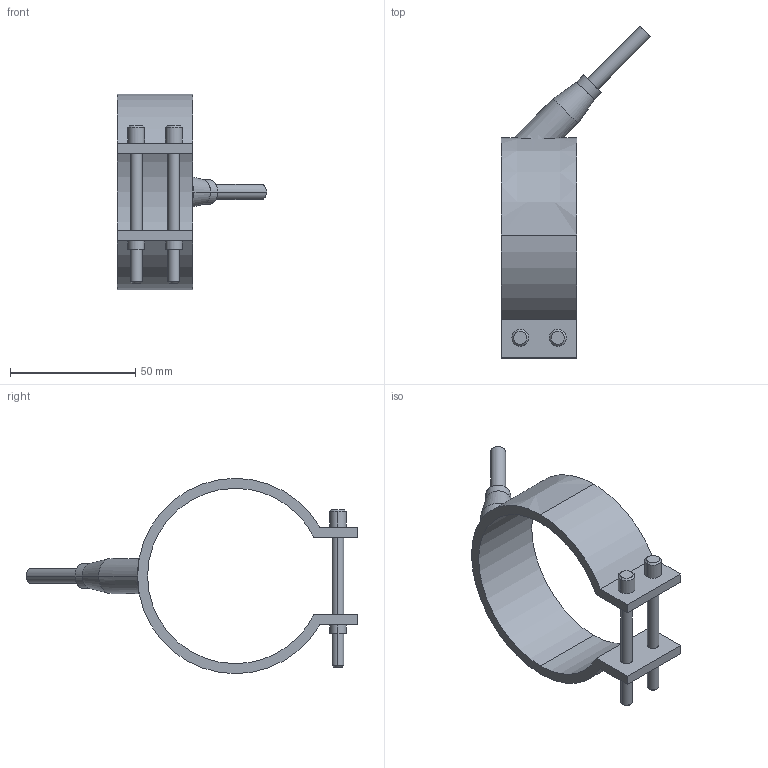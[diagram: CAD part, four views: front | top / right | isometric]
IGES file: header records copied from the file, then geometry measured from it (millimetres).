
Start section: START RECORD GO HERE.
Global section: file name: 29070030.igs; native system: DASSAULT SYSTEMES CATIA V5 R20 - www.3ds.com; preprocessor: CATIA Version 5 Release 20 ; author: Utente; organization: NB04-ASUS; date: 20210327.104424; units: millimetre
Bounding box: 59.55 x 132.55 x 78 mm (x, y, z)
Surface area: 19104.2 mm2 (no closed solid volume)
Topology: 0 solids, 0 shells, 54 faces, 252 edges, 252 vertices
Faces by surface type: revolution 38, plane 16
